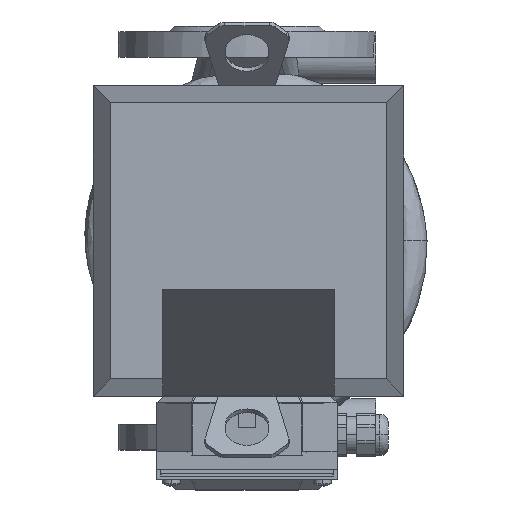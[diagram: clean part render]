
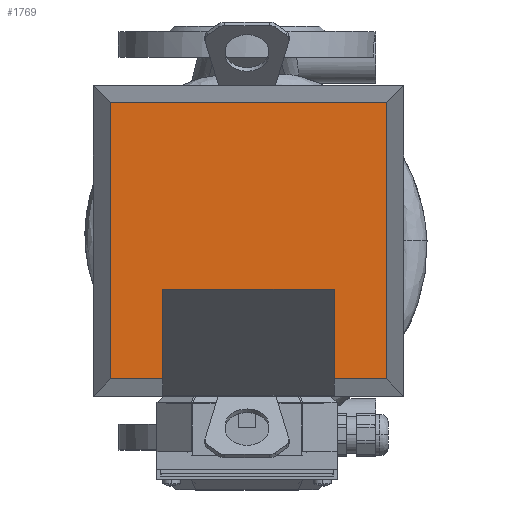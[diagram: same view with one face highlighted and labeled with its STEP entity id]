
A CAD part, top view. The second image highlights one B-rep face of the part: STEP entity #1769.
In plain terms, the highlighted planar face has unit normal (0, 0, 1) as drawn and (0, 1, 0) by its records, which use the part's own axes.
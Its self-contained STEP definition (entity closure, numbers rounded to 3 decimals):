
#1769=ADVANCED_FACE('',(#3188),#3189,.T.);
#1779=EDGE_CURVE('',#3201,#3204,#3205,.T.);
#3188=FACE_OUTER_BOUND('',#9375,.T.);
#3189=PLANE('',#9376);
#3201=VERTEX_POINT('',#9389);
#3204=VERTEX_POINT('',#9394);
#3205=LINE('',#9395,#9396);
#9375=EDGE_LOOP('',(#17037,#17038,#17039,#17040,#17041,#17042,#17043,#17044));
#9376=AXIS2_PLACEMENT_3D('',#17045,#17046,#17047);
#9389=CARTESIAN_POINT('',(50.0,114.0,118.64));
#9394=CARTESIAN_POINT('',(50.0,114.0,171.0));
#9395=CARTESIAN_POINT('',(50.0,114.0,90.179));
#9396=VECTOR('',#17073,1.0);
#17037=ORIENTED_EDGE('',*,*,#1779,.T.);
#17038=ORIENTED_EDGE('',*,*,#31340,.F.);
#17039=ORIENTED_EDGE('',*,*,#31348,.F.);
#17040=ORIENTED_EDGE('',*,*,#31350,.F.);
#17041=ORIENTED_EDGE('',*,*,#31342,.F.);
#17042=ORIENTED_EDGE('',*,*,#31336,.F.);
#17043=ORIENTED_EDGE('',*,*,#31329,.T.);
#17044=ORIENTED_EDGE('',*,*,#31332,.T.);
#17045=CARTESIAN_POINT('',(0.0,114.0,0.0));
#17046=DIRECTION('',(0.0,1.0,-0.0));
#17047=DIRECTION('',(-1.0,0.0,0.0));
#17073=DIRECTION('',(0.0,0.0,1.0));
#31329=EDGE_CURVE('',#50731,#50733,#50735,.T.);
#31332=EDGE_CURVE('',#50733,#3201,#50738,.T.);
#31336=EDGE_CURVE('',#50731,#50742,#50743,.T.);
#31340=EDGE_CURVE('',#50748,#3204,#50750,.T.);
#31342=EDGE_CURVE('',#50742,#50752,#50753,.T.);
#31348=EDGE_CURVE('',#50758,#50748,#50760,.T.);
#31350=EDGE_CURVE('',#50752,#50758,#50762,.T.);
#50731=VERTEX_POINT('',#61430);
#50733=VERTEX_POINT('',#61433);
#50735=LINE('',#61436,#61437);
#50738=LINE('',#61441,#61442);
#50742=VERTEX_POINT('',#61447);
#50743=LINE('',#61448,#61449);
#50748=VERTEX_POINT('',#61456);
#50750=LINE('',#61459,#61460);
#50752=VERTEX_POINT('',#61462);
#50753=LINE('',#61463,#61464);
#50758=VERTEX_POINT('',#61472);
#50760=LINE('',#61475,#61476);
#50762=LINE('',#61478,#61479);
#61430=CARTESIAN_POINT('',(-50.0,114.0,171.0));
#61433=CARTESIAN_POINT('',(-50.0,114.0,118.64));
#61436=CARTESIAN_POINT('',(-50.0,114.0,90.179));
#61437=VECTOR('',#72051,1.0);
#61441=CARTESIAN_POINT('',(25.0,114.0,118.64));
#61442=VECTOR('',#72053,1.0);
#61447=CARTESIAN_POINT('',(-80.5,114.0,171.0));
#61448=CARTESIAN_POINT('',(45.25,114.0,171.0));
#61449=VECTOR('',#72055,1.0);
#61456=CARTESIAN_POINT('',(80.5,114.0,171.0));
#61459=CARTESIAN_POINT('',(45.25,114.0,171.0));
#61460=VECTOR('',#72059,1.0);
#61462=CARTESIAN_POINT('',(-80.5,114.0,10.0));
#61463=CARTESIAN_POINT('',(-80.5,114.0,0.0));
#61464=VECTOR('',#72060,1.0);
#61472=CARTESIAN_POINT('',(80.5,114.0,10.0));
#61475=CARTESIAN_POINT('',(80.5,114.0,0.0));
#61476=VECTOR('',#72065,1.0);
#61478=CARTESIAN_POINT('',(45.25,114.0,10.0));
#61479=VECTOR('',#72066,1.0);
#72051=DIRECTION('',(-0.0,0.0,-1.0));
#72053=DIRECTION('',(1.0,-0.0,0.0));
#72055=DIRECTION('',(-1.0,0.0,-0.0));
#72059=DIRECTION('',(-1.0,0.0,-0.0));
#72060=DIRECTION('',(-0.0,-0.0,-1.0));
#72065=DIRECTION('',(-0.0,0.0,1.0));
#72066=DIRECTION('',(1.0,-0.0,-0.0));
